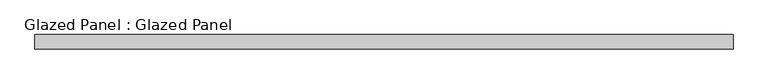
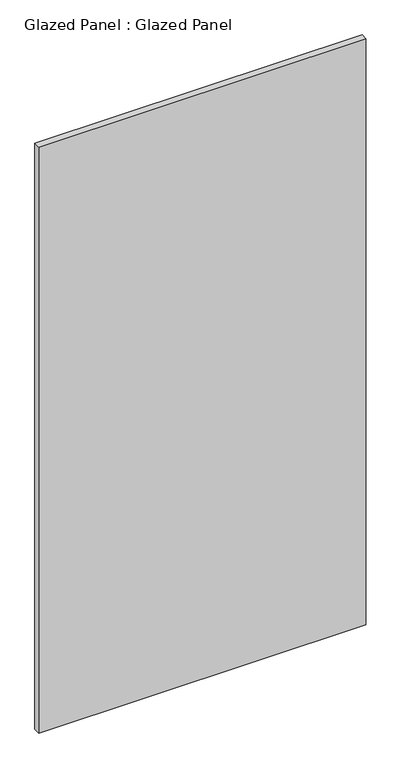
"""IFC4 building model written with IfcOpenShell, lengths in millimetres: plate geometry, Glazed Panel : Glazed Panel."""

from ifc_helpers import new_model, si_unit, origin, origin_with_axes, place, context, project, spatial, polyline, outline, extrude, source, transform, mapped, element, save


def glazed_panel_glazed_panel_b55688f1(model_context):
    return source(origin(), model_context, "Body", "SweptSolid", [
        extrude(outline(polyline([(627.1536732, 38.1), (-627.1536732, 38.1), (-627.1536732, 63.5), (627.1536732, 63.5), (627.1536732, 38.1)])), origin_with_axes(), (0.0, 0.0, 1.0), 2374.9),
    ])


if __name__ == "__main__":
    model = new_model("IFC4")
    model_context = context("Model", 3, world=origin())
    ifc_project = project(units=[si_unit("LENGTHUNIT", "METRE", prefix="MILLI")], contexts=[model_context])
    site = spatial("IfcSite", under=ifc_project)
    building = spatial("IfcBuilding", under=site)
    placement = place(None, origin())
    glazed_panel_glazed_panel_shape = glazed_panel_glazed_panel_b55688f1(model_context)
    element("IfcPlate", 1, ObjectType="Glazed Panel : Glazed Panel", at=placement, inside=building, context=model_context, shape_type="MappedRepresentation", body=[
        mapped(glazed_panel_glazed_panel_shape, transform((0.0, 0.0, 0.0), x_axis=(1.0, 0.0, 0.0), y_axis=(0.0, 1.0, 0.0), z_axis=(0.0, 0.0, 1.0))),
    ])
    save(model, "model.ifc")
